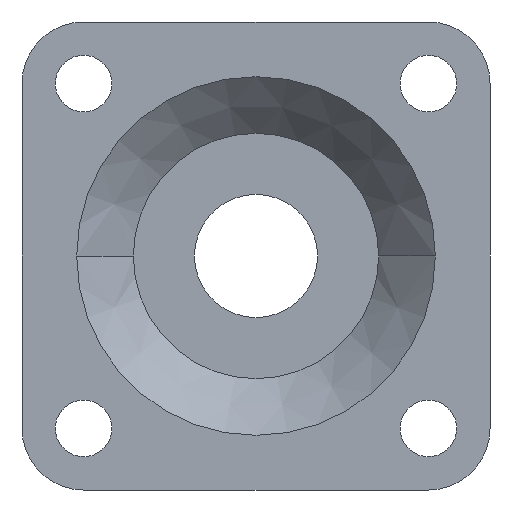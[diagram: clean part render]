
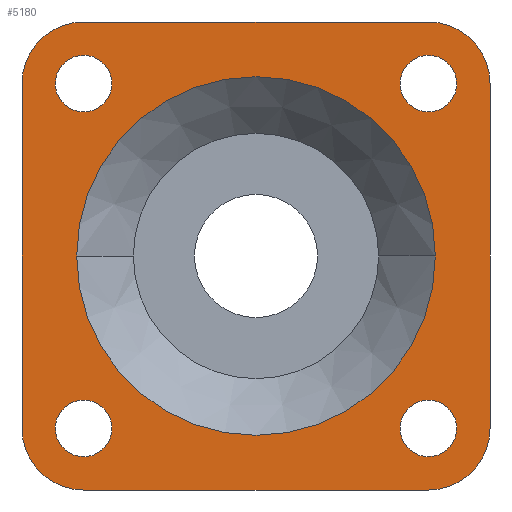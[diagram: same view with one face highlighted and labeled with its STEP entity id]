
A CAD part, left-side view. The second image highlights one B-rep face of the part: STEP entity #5180.
In plain terms, the highlighted planar face has unit normal (-1, 0, 0).
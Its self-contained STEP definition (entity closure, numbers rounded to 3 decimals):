
#1610=CARTESIAN_POINT('',(-19.,35.,47.5));
#1620=VERTEX_POINT('VERTEX55854',#1610);
#1650=CARTESIAN_POINT('',(-19.,35.,35.));
#1660=DIRECTION('',(-1.,0.,0.));
#1670=DIRECTION('',(0.,1.,0.));
#1680=AXIS2_PLACEMENT_3D('',#1650,#1660,#1670);
#1690=CIRCLE('',#1680,12.5);
#1700=CARTESIAN_POINT('',(-19.,47.5,35.));
#1710=VERTEX_POINT('VERTEX55853',#1700);
#1720=EDGE_CURVE('EDGE85195',#1620,#1710,#1690,.T.);
#1930=CARTESIAN_POINT('',(-19.,-35.,47.5));
#1940=VERTEX_POINT('VERTEX55855',#1930);
#1970=CARTESIAN_POINT('',(-19.,15.349,47.5));
#1980=DIRECTION('',(0.,1.,0.));
#1990=VECTOR('',#1980,1.);
#2000=LINE('',#1970,#1990);
#2010=EDGE_CURVE('EDGE85197',#1940,#1620,#2000,.T.);
#2170=CARTESIAN_POINT('',(-19.,-47.5,35.));
#2180=VERTEX_POINT('VERTEX55856',#2170);
#2210=CARTESIAN_POINT('',(-19.,-35.,35.));
#2220=DIRECTION('',(-1.,0.,0.));
#2230=DIRECTION('',(0.,0.,1.));
#2240=AXIS2_PLACEMENT_3D('',#2210,#2220,#2230);
#2250=CIRCLE('',#2240,12.5);
#2260=EDGE_CURVE('EDGE85199',#2180,#1940,#2250,.T.);
#2420=CARTESIAN_POINT('',(-19.,-47.5,-35.));
#2430=VERTEX_POINT('VERTEX55857',#2420);
#2460=CARTESIAN_POINT('',(-19.,-47.5,-17.5));
#2470=DIRECTION('',(0.,0.,1.));
#2480=VECTOR('',#2470,1.);
#2490=LINE('',#2460,#2480);
#2500=EDGE_CURVE('EDGE85201',#2430,#2180,#2490,.T.);
#2660=CARTESIAN_POINT('',(-19.,-35.,-47.5));
#2670=VERTEX_POINT('VERTEX55858',#2660);
#2700=CARTESIAN_POINT('',(-19.,-35.,-35.));
#2710=DIRECTION('',(-1.,0.,0.));
#2720=DIRECTION('',(0.,-1.,0.));
#2730=AXIS2_PLACEMENT_3D('',#2700,#2710,#2720);
#2740=CIRCLE('',#2730,12.5);
#2750=EDGE_CURVE('EDGE85203',#2670,#2430,#2740,.T.);
#2910=CARTESIAN_POINT('',(-19.,35.,-47.5));
#2920=VERTEX_POINT('VERTEX55859',#2910);
#2950=CARTESIAN_POINT('',(-19.,50.349,-47.5));
#2960=DIRECTION('',(0.,-1.,0.));
#2970=VECTOR('',#2960,1.);
#2980=LINE('',#2950,#2970);
#2990=EDGE_CURVE('EDGE85205',#2920,#2670,#2980,.T.);
#3150=CARTESIAN_POINT('',(-19.,47.5,-35.));
#3160=VERTEX_POINT('VERTEX55860',#3150);
#3190=CARTESIAN_POINT('',(-19.,35.,-35.));
#3200=DIRECTION('',(-1.,0.,0.));
#3210=DIRECTION('',(0.,0.,-1.));
#3220=AXIS2_PLACEMENT_3D('',#3190,#3200,#3210);
#3230=CIRCLE('',#3220,12.5);
#3240=EDGE_CURVE('EDGE85207',#3160,#2920,#3230,.T.);
#3370=CARTESIAN_POINT('',(-19.,47.5,17.5));
#3380=DIRECTION('',(0.,0.,-1.));
#3390=VECTOR('',#3380,1.);
#3400=LINE('',#3370,#3390);
#3410=EDGE_CURVE('EDGE85209',#1710,#3160,#3400,.T.);
#3570=CARTESIAN_POINT('',(-19.,35.,-40.75));
#3580=VERTEX_POINT('VERTEX55861',#3570);
#3610=CARTESIAN_POINT('',(-19.,35.,-35.));
#3620=DIRECTION('',(1.,0.,0.));
#3630=DIRECTION('',(0.,0.,-1.));
#3640=AXIS2_PLACEMENT_3D('',#3610,#3620,#3630);
#3650=CIRCLE('',#3640,5.75);
#3660=CARTESIAN_POINT('',(-19.,35.,-29.25));
#3670=VERTEX_POINT('',#3660);
#3680=EDGE_CURVE('',#3580,#3670,#3650,.T.);
#4250=CARTESIAN_POINT('',(-19.,35.,29.25));
#4260=VERTEX_POINT('VERTEX55863',#4250);
#4340=CARTESIAN_POINT('',(-19.,35.,40.75));
#4350=VERTEX_POINT('',#4340);
#4380=CARTESIAN_POINT('',(-19.,35.,35.));
#4390=DIRECTION('',(1.,0.,0.));
#4400=DIRECTION('',(0.,0.,-1.));
#4410=AXIS2_PLACEMENT_3D('',#4380,#4390,#4400);
#4420=CIRCLE('',#4410,5.75);
#4430=EDGE_CURVE('EDGE85216',#4350,#4260,#4420,.T.);
#4480=CARTESIAN_POINT('',(-19.,65.697,0.));
#4490=DIRECTION('',(-1.,0.,0.));
#4500=DIRECTION('',(0.,1.,0.));
#4510=AXIS2_PLACEMENT_3D('',#4480,#4490,#4500);
#4520=PLANE('',#4510);
#4530=CARTESIAN_POINT('',(-19.,-35.,-35.));
#4540=DIRECTION('',(1.,0.,0.));
#4550=DIRECTION('',(0.,0.,-1.));
#4560=AXIS2_PLACEMENT_3D('',#4530,#4540,#4550);
#4570=CIRCLE('',#4560,5.75);
#4580=CARTESIAN_POINT('',(-19.,-35.,-29.25));
#4590=VERTEX_POINT('VERTEX55868',#4580);
#4600=CARTESIAN_POINT('',(-19.,-35.,-40.75));
#4610=VERTEX_POINT('',#4600);
#4620=EDGE_CURVE('',#4590,#4610,#4570,.T.);
#4630=ORIENTED_EDGE('',*,*,#4620,.T.);
#4640=EDGE_CURVE('EDGE85224',#4610,#4590,#4570,.T.);
#4650=ORIENTED_EDGE('',*,*,#4640,.T.);
#4660=EDGE_LOOP('',(#4650,#4630));
#4670=FACE_BOUND('',#4660,.T.);
#4680=CARTESIAN_POINT('',(-19.,-35.,35.));
#4690=DIRECTION('',(1.,0.,0.));
#4700=DIRECTION('',(0.,0.,-1.));
#4710=AXIS2_PLACEMENT_3D('',#4680,#4690,#4700);
#4720=CIRCLE('',#4710,5.75);
#4730=CARTESIAN_POINT('',(-19.,-35.,29.25));
#4740=VERTEX_POINT('VERTEX55865',#4730);
#4750=CARTESIAN_POINT('',(-19.,-35.,40.75));
#4760=VERTEX_POINT('',#4750);
#4770=EDGE_CURVE('',#4740,#4760,#4720,.T.);
#4780=ORIENTED_EDGE('',*,*,#4770,.T.);
#4790=EDGE_CURVE('EDGE85220',#4760,#4740,#4720,.T.);
#4800=ORIENTED_EDGE('',*,*,#4790,.T.);
#4810=EDGE_LOOP('',(#4800,#4780));
#4820=FACE_BOUND('',#4810,.T.);
#4830=EDGE_CURVE('',#4260,#4350,#4420,.T.);
#4840=ORIENTED_EDGE('',*,*,#4830,.T.);
#4850=ORIENTED_EDGE('',*,*,#4430,.T.);
#4860=EDGE_LOOP('',(#4850,#4840));
#4870=FACE_BOUND('',#4860,.T.);
#4880=ORIENTED_EDGE('',*,*,#3680,.T.);
#4890=EDGE_CURVE('EDGE85212',#3670,#3580,#3650,.T.);
#4900=ORIENTED_EDGE('',*,*,#4890,.T.);
#4910=EDGE_LOOP('',(#4900,#4880));
#4920=FACE_BOUND('',#4910,.T.);
#4930=ORIENTED_EDGE('',*,*,#1720,.T.);
#4940=ORIENTED_EDGE('',*,*,#2010,.T.);
#4950=ORIENTED_EDGE('',*,*,#2260,.T.);
#4960=ORIENTED_EDGE('',*,*,#2500,.T.);
#4970=ORIENTED_EDGE('',*,*,#2750,.T.);
#4980=ORIENTED_EDGE('',*,*,#2990,.T.);
#4990=ORIENTED_EDGE('',*,*,#3240,.T.);
#5000=ORIENTED_EDGE('',*,*,#3410,.T.);
#5010=EDGE_LOOP('',(#5000,#4990,#4980,#4970,#4960,#4950,#4940,#4930));
#5020=FACE_OUTER_BOUND('',#5010,.T.);
#5030=CARTESIAN_POINT('',(-19.,0.,0.));
#5040=DIRECTION('',(-1.,0.,0.));
#5050=DIRECTION('',(0.,1.,0.));
#5060=AXIS2_PLACEMENT_3D('',#5030,#5040,#5050);
#5070=CIRCLE('',#5060,36.395);
#5080=CARTESIAN_POINT('',(-19.,36.395,0.));
#5090=VERTEX_POINT('VERTEX55871',#5080);
#5100=CARTESIAN_POINT('',(-19.,-36.395,0.));
#5110=VERTEX_POINT('',#5100);
#5120=EDGE_CURVE('',#5090,#5110,#5070,.T.);
#5130=ORIENTED_EDGE('',*,*,#5120,.F.);
#5140=EDGE_CURVE('EDGE85229',#5110,#5090,#5070,.T.);
#5150=ORIENTED_EDGE('',*,*,#5140,.F.);
#5160=EDGE_LOOP('',(#5150,#5130));
#5170=FACE_BOUND('',#5160,.T.);
#5180=ADVANCED_FACE('FACE32568',(#4670,#4820,#4870,#4920,#5020,#5170),
#4520,.T.);
